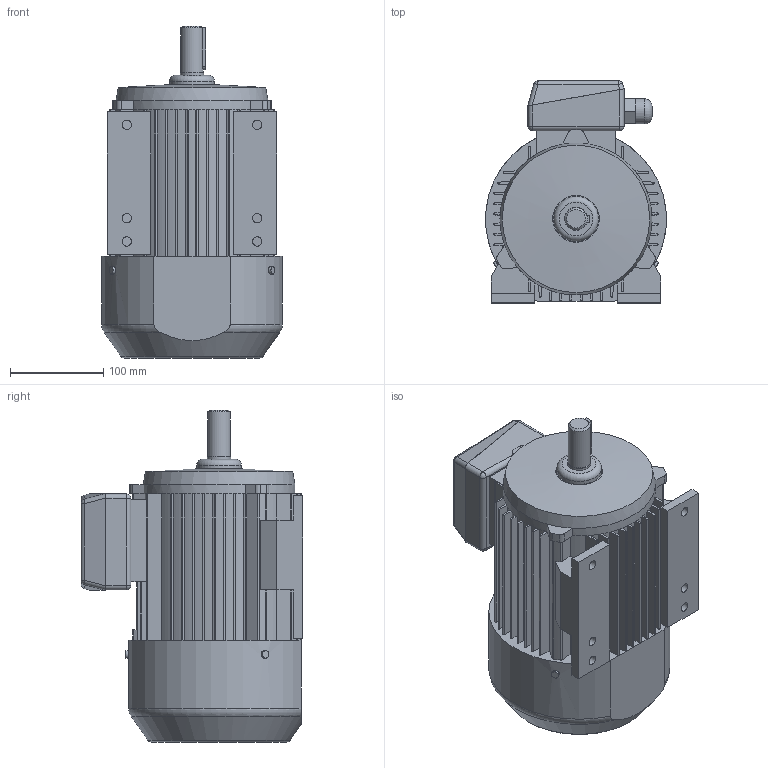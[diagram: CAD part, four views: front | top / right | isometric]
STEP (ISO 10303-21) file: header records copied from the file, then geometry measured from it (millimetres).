
FILE_DESCRIPTION(/* description */ ('Unknown'),/* implementation_level */ '2;1');
FILE_NAME(/* name */ 'Ex 3SIE90L4,6 – 2G,2D,2G&2D – IMB3',/* time_stamp */ '2023-05-11T07:55:34+02:00',/* author */ ('Unknown'),/* organization */ ('Unknown'),/* preprocessor_version */ 'ST-DEVELOPER v16.7',/* originating_system */ 'DEX',/* authorisation */ $);
FILE_SCHEMA (('AUTOMOTIVE_DESIGN {1 0 10303 214 3 1 1}'));
Length unit declared in the file: millimetre
Products named in the file (1): 3SIE90L4,6
Bounding box: 193.75 x 238 x 356 mm (x, y, z)
Volume: 7928748.5 mm3; surface area: 399473.6 mm2
Topology: 2 solids, 2 shells, 521 faces, 1418 edges, 907 vertices
Faces by surface type: plane 292, cylinder 135, bspline 78, sphere 8, cone 4, torus 4
Full cylindrical faces by diameter (mm): 8 x3, 10 x6, 24 x1, 25 x1, 27 x1, 48 x1
Entity records: 19885 total; most frequent: CARTESIAN_POINT 7122, ORIENTED_EDGE 2758, DIRECTION 2460, EDGE_CURVE 1379, VERTEX_POINT 896, LINE 858, VECTOR 858, AXIS2_PLACEMENT_3D 801
